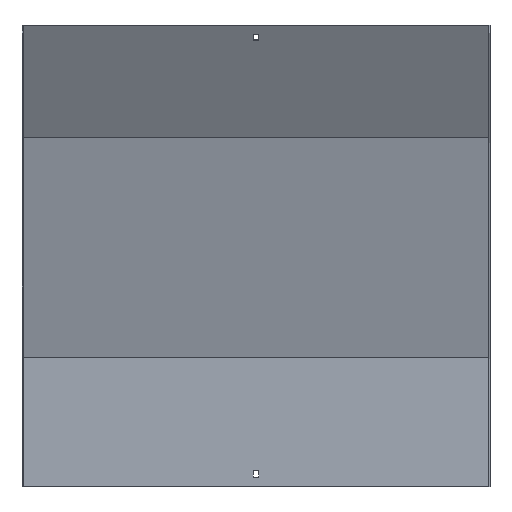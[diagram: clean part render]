
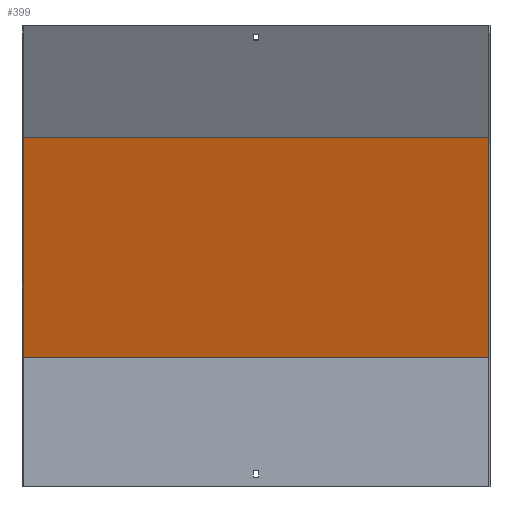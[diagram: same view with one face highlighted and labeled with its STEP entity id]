
A CAD part, front view. The second image highlights one B-rep face of the part: STEP entity #399.
In plain terms, the highlighted planar face has unit normal (0, -0.966, -0.259).
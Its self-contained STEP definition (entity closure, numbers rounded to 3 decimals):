
#18 = VERTEX_POINT ( 'NONE', #498 ) ;
#34 = CARTESIAN_POINT ( 'NONE',  ( 300., -57.301, 449.327 ) ) ;
#56 = LINE ( 'NONE', #323, #110 ) ;
#82 = CARTESIAN_POINT ( 'NONE',  ( 301.5, -57.301, 449.327 ) ) ;
#86 = VECTOR ( 'NONE', #641, 1000. ) ;
#93 = DIRECTION ( 'NONE',  ( -1., 0., 0. ) ) ;
#110 = VECTOR ( 'NONE', #124, 1000. ) ;
#119 = VERTEX_POINT ( 'NONE', #813 ) ;
#124 = DIRECTION ( 'NONE',  ( 0., -0.259, 0.966 ) ) ;
#153 = EDGE_CURVE ( 'NONE', #119, #312, #624, .T. ) ;
#165 = AXIS2_PLACEMENT_3D ( 'NONE', #233, #316, #768 ) ;
#233 = CARTESIAN_POINT ( 'NONE',  ( 301.5, 17.87, 168.788 ) ) ;
#242 = CARTESIAN_POINT ( 'NONE',  ( -300., 58.87, 15.774 ) ) ;
#250 = CARTESIAN_POINT ( 'NONE',  ( -300., 18.5, 166.436 ) ) ;
#289 = ORIENTED_EDGE ( 'NONE', *, *, #797, .T. ) ;
#312 = VERTEX_POINT ( 'NONE', #250 ) ;
#316 = DIRECTION ( 'NONE',  ( 0., -0.966, -0.259 ) ) ;
#323 = CARTESIAN_POINT ( 'NONE',  ( 300., 58.87, 15.774 ) ) ;
#368 = DIRECTION ( 'NONE',  ( -1., 0., 0. ) ) ;
#399 = ADVANCED_FACE ( 'NONE', ( #510 ), #833, .T. ) ;
#451 = ORIENTED_EDGE ( 'NONE', *, *, #153, .F. ) ;
#483 = ORIENTED_EDGE ( 'NONE', *, *, #694, .F. ) ;
#498 = CARTESIAN_POINT ( 'NONE',  ( -300., -57.301, 449.327 ) ) ;
#510 = FACE_OUTER_BOUND ( 'NONE', #557, .T. ) ;
#532 = ORIENTED_EDGE ( 'NONE', *, *, #551, .T. ) ;
#551 = EDGE_CURVE ( 'NONE', #119, #727, #56, .T. ) ;
#557 = EDGE_LOOP ( 'NONE', ( #483, #451, #532, #289 ) ) ;
#576 = LINE ( 'NONE', #242, #86 ) ;
#618 = VECTOR ( 'NONE', #93, 1000. ) ;
#624 = LINE ( 'NONE', #636, #801 ) ;
#636 = CARTESIAN_POINT ( 'NONE',  ( 301.5, 18.5, 166.436 ) ) ;
#641 = DIRECTION ( 'NONE',  ( 0., -0.259, 0.966 ) ) ;
#694 = EDGE_CURVE ( 'NONE', #312, #18, #576, .T. ) ;
#727 = VERTEX_POINT ( 'NONE', #34 ) ;
#747 = LINE ( 'NONE', #82, #618 ) ;
#768 = DIRECTION ( 'NONE',  ( 0., 0.259, -0.966 ) ) ;
#797 = EDGE_CURVE ( 'NONE', #727, #18, #747, .T. ) ;
#801 = VECTOR ( 'NONE', #368, 1000. ) ;
#813 = CARTESIAN_POINT ( 'NONE',  ( 300., 18.5, 166.436 ) ) ;
#833 = PLANE ( 'NONE',  #165 ) ;
